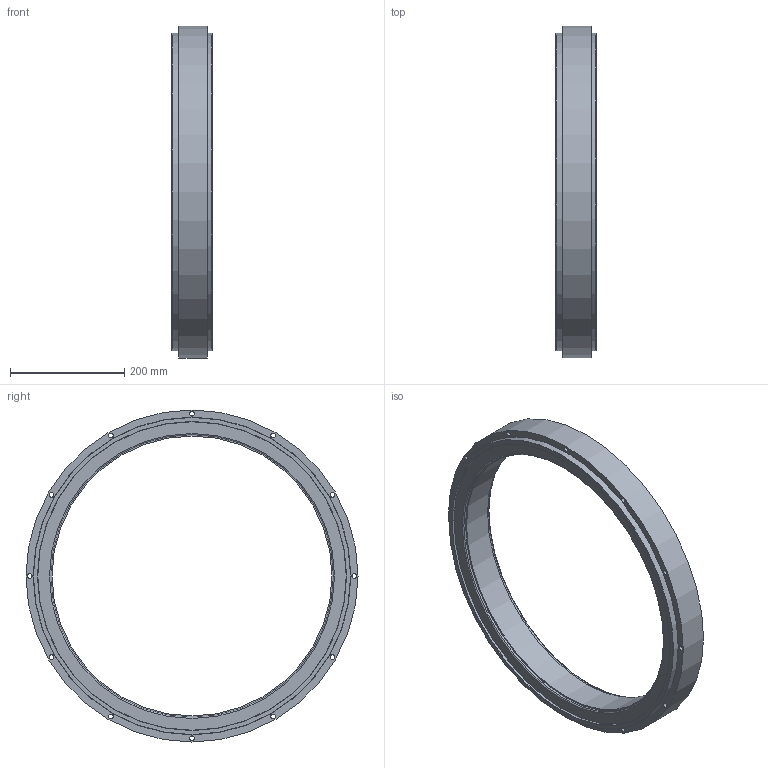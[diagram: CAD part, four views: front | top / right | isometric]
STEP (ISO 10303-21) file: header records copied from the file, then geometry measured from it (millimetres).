
FILE_DESCRIPTION(('STEP AP214'), '1');
FILE_NAME('抸迍.684222.023-01 栺僗闉 580x50', '', ('UNSPECIFIED'), ('UNSPECIFIED'), 'C3D Converter', 'C3D Toolkit', '');
FILE_SCHEMA(('AUTOMOTIVE_DESIGN { 1 0 10303 214 3 1 1}'));
Length unit declared in the file: millimetre
Products named in the file (1): МАНП.684222.023-01
Bounding box: 70 x 580 x 580 mm (x, y, z)
Volume: 4614214.3 mm3; surface area: 398040.7 mm2
Topology: 1 solids, 1 shells, 33 faces, 70 edges, 45 vertices
Faces by surface type: cylinder 20, plane 8, torus 5
Full cylindrical faces by diameter (mm): 8.4 x12, 489 x1, 494 x2, 539 x2, 555 x2, 580 x1
Entity records: 1140 total; most frequent: DIRECTION 158, CARTESIAN_POINT 124, EDGE_LOOP 90, ORIENTED_EDGE 90, AXIS2_PLACEMENT_3D 79, FACE_OUTER_BOUND 50, EDGE_CURVE 45, VERTEX_POINT 45
